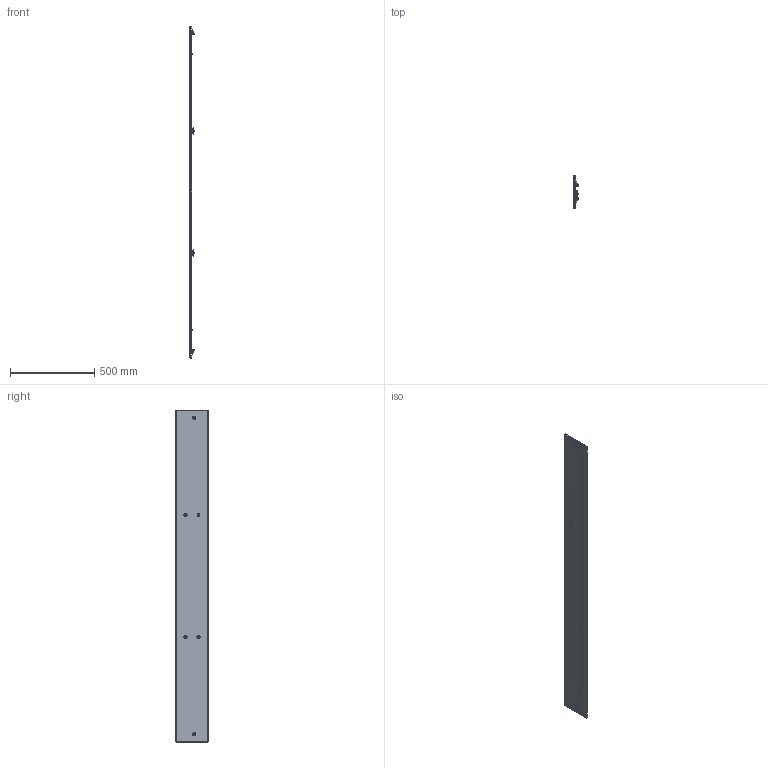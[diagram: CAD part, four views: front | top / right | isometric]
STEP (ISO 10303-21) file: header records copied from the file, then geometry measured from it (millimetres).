
FILE_DESCRIPTION(('STEP AP203'), '1');
FILE_NAME('3630 Ñåêöèîííàÿ ïàíåëü íà âèíòàõ (íà âñþ âûñîòó) ÑÁ', '', ('UNSPECIFIED'), ('UNSPECIFIED'), 'C3D Converter', 'C3D Toolkit', '');
FILE_SCHEMA(('CONFIG_CONTROL_DESIGN'));
Length unit declared in the file: millimetre
Products named in the file (10): 3630.200.20 СБ; 3631.200.20; 3632.200.20; 3604; 3654; 203-0655.61;  202-1103.15-00530
Assembly tree (36 placements, depth 3):
  3630.200.20 СБ
    3631.200.20
      3632.200.20
      (unnamed)  x2
    3604  x6
      3654
      (unnamed)
    203-0655.61  x6
     202-1103.15-00530  x6
    (unnamed)  x12
Bounding box: 31.95 x 191 x 1971 mm (x, y, z)
Volume: 1030782.2 mm3; surface area: 1073836.5 mm2
Topology: 40 solids, 40 shells, 1087 faces, 2674 edges, 1726 vertices
Faces by surface type: plane 589, cylinder 234, bspline 112, cone 86, torus 54, sphere 12
Full cylindrical faces by diameter (mm): 4 x6, 4.134 x6, 4.8 x12, 5 x6, 5.2 x12, 6 x2, 6.38 x6, 6.4 x6, 7.5 x12, 7.74 x6, 8.7 x6, 9.5 x12, 11.5 x4
Entity records: 12359 total; most frequent: CARTESIAN_POINT 4396, DIRECTION 1404, ORIENTED_EDGE 1240, EDGE_CURVE 620, AXIS2_PLACEMENT_3D 520, VERTEX_POINT 406, EDGE_LOOP 380, LINE 364
